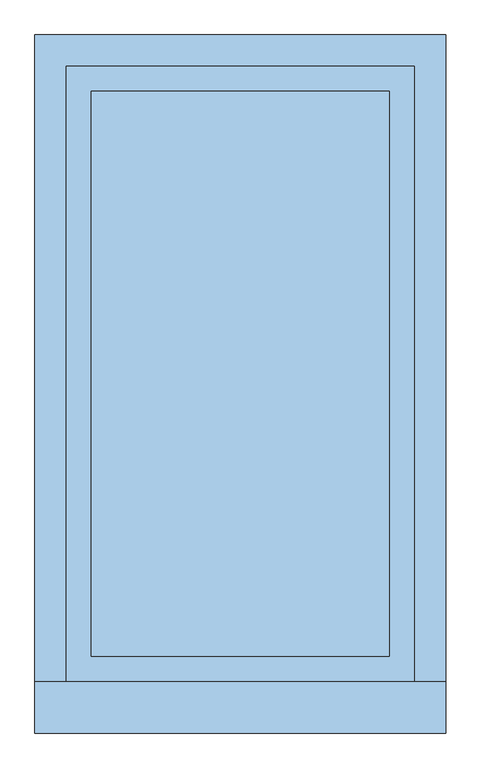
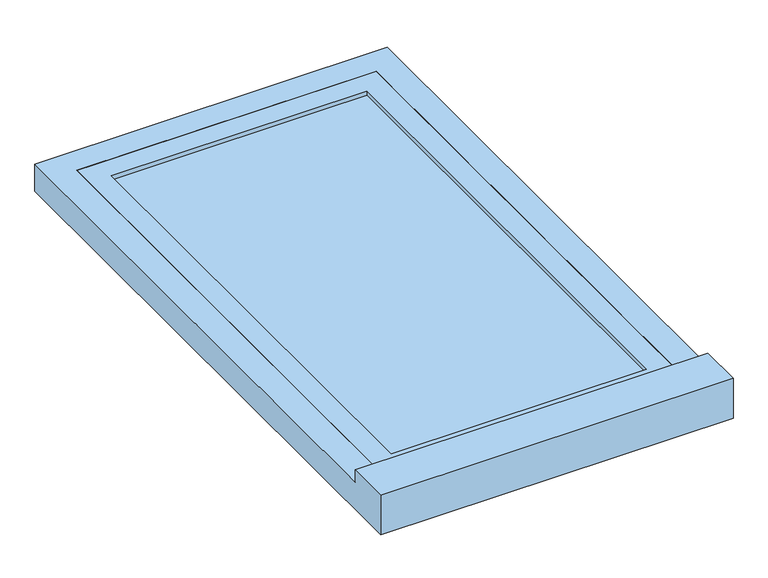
"""IFC4 building model written with IfcOpenShell, lengths in millimetres: window geometry, Fenêtre de toit : Fenêtre de toit."""

from ifc_helpers import new_model, si_unit, frame, origin, place, context, project, spatial, polyline, circle_curve, outline, extrude, faceted_brep, source, transform, mapped, element, save
from ifc_brep_helpers import plane_surface, cylinder_surface, advanced_brep


def window_50da2577(model_context):
    return source(origin(), model_context, "Body", "SolidModel", [
        advanced_brep(
        [(-325.0, -563.5, 4030.0), (-325.0, -586.5, 4030.0), (-325.0, -586.5, 4040.0), (-325.0, -563.5, 4040.0), (325.0, -563.5, 4030.0), (325.0, -563.5, 4040.0), (325.0, -586.5, 4040.0), (325.0, -586.5, 4030.0), (285.0, -570.0, 4040.0), (285.0, -580.0, 4040.0), (275.0, -580.0, 4040.0), (275.0, -570.0, 4040.0), (98.3333333, -570.0, 4040.0), (98.3333333, -580.0, 4040.0), (88.3333333, -580.0, 4040.0), (88.3333333, -570.0, 4040.0), (-88.3333333, -570.0, 4040.0), (-88.3333333, -580.0, 4040.0), (-98.3333333, -580.0, 4040.0), (-98.3333333, -570.0, 4040.0), (-275.0, -570.0, 4040.0), (-275.0, -580.0, 4040.0), (-285.0, -580.0, 4040.0), (-285.0, -570.0, 4040.0), (285.0, -570.0, 4075.0), (275.0, -570.0, 4075.0), (275.0, -580.0, 4075.0), (285.0, -580.0, 4075.0), (98.3333333, -570.0, 4075.0), (88.3333333, -570.0, 4075.0), (88.3333333, -580.0, 4075.0), (98.3333333, -580.0, 4075.0), (-88.3333333, -570.0, 4075.0), (-98.3333333, -570.0, 4075.0), (-98.3333333, -580.0, 4075.0), (-88.3333333, -580.0, 4075.0), (-275.0, -570.0, 4075.0), (-285.0, -570.0, 4075.0), (-285.0, -580.0, 4075.0), (-275.0, -580.0, 4075.0)],
        [
            (0, 1),
            (1, 2, circle_curve(frame((-325.0, -586.5, 4035.0), z_axis=(-1.0, 0.0, 0.0), x_axis=(0.0, 1.0, 0.0)), 5.0)),
            (2, 3),
            (3, 0, circle_curve(frame((-325.0, -563.5, 4035.0), z_axis=(-1.0, 0.0, 0.0), x_axis=(0.0, 1.0, 0.0)), 5.0)),
            (4, 5, circle_curve(frame((325.0, -563.5, 4035.0), z_axis=(1.0, 0.0, 0.0), x_axis=(0.0, 1.0, 0.0)), 5.0)),
            (5, 6),
            (6, 7, circle_curve(frame((325.0, -586.5, 4035.0), z_axis=(1.0, 0.0, 0.0), x_axis=(0.0, 1.0, 0.0)), 5.0)),
            (7, 4),
            (0, 4),
            (7, 1),
            (6, 2),
            (5, 3),
            (8, 9),
            (9, 10, circle_curve(frame((280.0, -580.0, 4040.0), z_axis=(0.0, 0.0, -1.0), x_axis=(-1.0, 0.0, 0.0)), 5.0)),
            (10, 11),
            (11, 8, circle_curve(frame((280.0, -570.0, 4040.0), z_axis=(0.0, 0.0, -1.0), x_axis=(-1.0, 0.0, 0.0)), 5.0)),
            (12, 13),
            (13, 14, circle_curve(frame((93.3333333, -580.0, 4040.0), z_axis=(0.0, 0.0, -1.0), x_axis=(-1.0, 0.0, 0.0)), 5.0)),
            (14, 15),
            (15, 12, circle_curve(frame((93.3333333, -570.0, 4040.0), z_axis=(0.0, 0.0, -1.0), x_axis=(-1.0, 0.0, 0.0)), 5.0)),
            (16, 17),
            (17, 18, circle_curve(frame((-93.3333333, -580.0, 4040.0), z_axis=(0.0, 0.0, -1.0), x_axis=(-1.0, 0.0, 0.0)), 5.0)),
            (18, 19),
            (19, 16, circle_curve(frame((-93.3333333, -570.0, 4040.0), z_axis=(0.0, 0.0, -1.0), x_axis=(-1.0, 0.0, 0.0)), 5.0)),
            (20, 21),
            (21, 22, circle_curve(frame((-280.0, -580.0, 4040.0), z_axis=(0.0, 0.0, -1.0), x_axis=(-1.0, 0.0, 0.0)), 5.0)),
            (22, 23),
            (23, 20, circle_curve(frame((-280.0, -570.0, 4040.0), z_axis=(0.0, 0.0, -1.0), x_axis=(-1.0, 0.0, 0.0)), 5.0)),
            (24, 25, circle_curve(frame((280.0, -570.0, 4075.0), z_axis=(0.0, 0.0, 1.0), x_axis=(-1.0, 0.0, 0.0)), 5.0)),
            (25, 26),
            (26, 27, circle_curve(frame((280.0, -580.0, 4075.0), z_axis=(0.0, 0.0, 1.0), x_axis=(-1.0, 0.0, 0.0)), 5.0)),
            (27, 24),
            (28, 29, circle_curve(frame((93.3333333, -570.0, 4075.0), z_axis=(0.0, 0.0, 1.0), x_axis=(-1.0, 0.0, 0.0)), 5.0)),
            (29, 30),
            (30, 31, circle_curve(frame((93.3333333, -580.0, 4075.0), z_axis=(0.0, 0.0, 1.0), x_axis=(-1.0, 0.0, 0.0)), 5.0)),
            (31, 28),
            (32, 33, circle_curve(frame((-93.3333333, -570.0, 4075.0), z_axis=(0.0, 0.0, 1.0), x_axis=(-1.0, 0.0, 0.0)), 5.0)),
            (33, 34),
            (34, 35, circle_curve(frame((-93.3333333, -580.0, 4075.0), z_axis=(0.0, 0.0, 1.0), x_axis=(-1.0, 0.0, 0.0)), 5.0)),
            (35, 32),
            (36, 37, circle_curve(frame((-280.0, -570.0, 4075.0), z_axis=(0.0, 0.0, 1.0), x_axis=(-1.0, 0.0, 0.0)), 5.0)),
            (37, 38),
            (38, 39, circle_curve(frame((-280.0, -580.0, 4075.0), z_axis=(0.0, 0.0, 1.0), x_axis=(-1.0, 0.0, 0.0)), 5.0)),
            (39, 36),
            (27, 9),
            (8, 24),
            (26, 10),
            (25, 11),
            (31, 13),
            (12, 28),
            (30, 14),
            (29, 15),
            (35, 17),
            (16, 32),
            (34, 18),
            (33, 19),
            (39, 21),
            (20, 36),
            (38, 22),
            (37, 23),
        ],
        [
            plane_surface(frame((-325.0, -604.8858213, 4030.0), z_axis=(-1.0, 0.0, 0.0), x_axis=(0.0, -1.0, 0.0))),
            plane_surface(frame((325.0, -604.8858213, 4030.0), z_axis=(1.0, 0.0, 0.0), x_axis=(0.0, 1.0, 0.0))),
            plane_surface(frame((-325.0, -563.5, 4030.0), z_axis=(0.0, 0.0, -1.0), x_axis=(1.0, 0.0, 0.0))),
            cylinder_surface(frame((325.0, -586.5, 4035.0), z_axis=(-1.0, 0.0, 0.0), x_axis=(0.0, 1.0, 0.0)), 5.0),
            plane_surface(frame((-325.0, -586.5, 4040.0), z_axis=(0.0, 0.0, 1.0), x_axis=(1.0, 0.0, 0.0))),
            cylinder_surface(frame((325.0, -563.5, 4035.0), z_axis=(-1.0, 0.0, 0.0), x_axis=(0.0, 1.0, 0.0)), 5.0),
            plane_surface(frame((285.0, -580.0, 4075.0), z_axis=(0.0, 0.0, 1.0), x_axis=(0.0, 1.0, 0.0))),
            plane_surface(frame((285.0, -570.0, 4035.0), z_axis=(1.0, 0.0, 0.0), x_axis=(0.0, 0.0, 1.0))),
            cylinder_surface(frame((280.0, -580.0, 4075.0), z_axis=(0.0, 0.0, -1.0), x_axis=(-1.0, 0.0, 0.0)), 5.0),
            plane_surface(frame((275.0, -580.0, 4035.0), z_axis=(-1.0, 0.0, 0.0), x_axis=(0.0, 0.0, 1.0))),
            cylinder_surface(frame((280.0, -570.0, 4075.0), z_axis=(0.0, 0.0, -1.0), x_axis=(-1.0, 0.0, 0.0)), 5.0),
            plane_surface(frame((98.3333333, -570.0, 4035.0), z_axis=(1.0, 0.0, 0.0), x_axis=(0.0, 0.0, 1.0))),
            cylinder_surface(frame((93.3333333, -580.0, 4075.0), z_axis=(0.0, 0.0, -1.0), x_axis=(-1.0, 0.0, 0.0)), 5.0),
            plane_surface(frame((88.3333333, -580.0, 4035.0), z_axis=(-1.0, 0.0, 0.0), x_axis=(0.0, 0.0, 1.0))),
            cylinder_surface(frame((93.3333333, -570.0, 4075.0), z_axis=(0.0, 0.0, -1.0), x_axis=(-1.0, 0.0, 0.0)), 5.0),
            plane_surface(frame((-88.3333333, -570.0, 4035.0), z_axis=(1.0, 0.0, 0.0), x_axis=(0.0, 0.0, 1.0))),
            cylinder_surface(frame((-93.3333333, -580.0, 4075.0), z_axis=(0.0, 0.0, -1.0), x_axis=(-1.0, 0.0, 0.0)), 5.0),
            plane_surface(frame((-98.3333333, -580.0, 4035.0), z_axis=(-1.0, 0.0, 0.0), x_axis=(0.0, 0.0, 1.0))),
            cylinder_surface(frame((-93.3333333, -570.0, 4075.0), z_axis=(0.0, 0.0, -1.0), x_axis=(-1.0, 0.0, 0.0)), 5.0),
            plane_surface(frame((-275.0, -570.0, 4035.0), z_axis=(1.0, 0.0, 0.0), x_axis=(0.0, 0.0, 1.0))),
            cylinder_surface(frame((-280.0, -580.0, 4075.0), z_axis=(0.0, 0.0, -1.0), x_axis=(-1.0, 0.0, 0.0)), 5.0),
            plane_surface(frame((-285.0, -580.0, 4035.0), z_axis=(-1.0, 0.0, 0.0), x_axis=(0.0, 0.0, 1.0))),
            cylinder_surface(frame((-280.0, -570.0, 4075.0), z_axis=(0.0, 0.0, -1.0), x_axis=(-1.0, 0.0, 0.0)), 5.0),
        ],
        [
            (0, [[1, 2, 3, 4]]),
            (1, [[5, 6, 7, 8]]),
            (2, [[-1, 9, -8, 10]]),
            (3, [[-2, -10, -7, 11]]),
            (4, [[-3, -11, -6, 12], [13, 14, 15, 16], [17, 18, 19, 20], [21, 22, 23, 24], [25, 26, 27, 28]]),
            (5, [[-4, -12, -5, -9]]),
            (6, [[29, 30, 31, 32]]),
            (6, [[33, 34, 35, 36]]),
            (6, [[37, 38, 39, 40]]),
            (6, [[41, 42, 43, 44]]),
            (7, [[-32, 45, -13, 46]]),
            (8, [[-31, 47, -14, -45]]),
            (9, [[-30, 48, -15, -47]]),
            (10, [[-29, -46, -16, -48]]),
            (11, [[-36, 49, -17, 50]]),
            (12, [[-35, 51, -18, -49]]),
            (13, [[-34, 52, -19, -51]]),
            (14, [[-33, -50, -20, -52]]),
            (15, [[-40, 53, -21, 54]]),
            (16, [[-39, 55, -22, -53]]),
            (17, [[-38, 56, -23, -55]]),
            (18, [[-37, -54, -24, -56]]),
            (19, [[-44, 57, -25, 58]]),
            (20, [[-43, 59, -26, -57]]),
            (21, [[-42, 60, -27, -59]]),
            (22, [[-41, -58, -28, -60]]),
        ],
    ),
        faceted_brep([(400.0, 660.0, 4115.0), (-400.0, 660.0, 4115.0), (-400.0, -600.0, 4115.0), (-340.0, -600.0, 4115.0), (-340.0, 600.0, 4115.0), (340.0, 600.0, 4115.0), (340.0, -600.0, 4115.0), (400.0, -600.0, 4115.0), (400.0, -700.0, 4050.0), (-400.0, -700.0, 4050.0), (-400.0, 660.0, 4050.0), (400.0, 660.0, 4050.0), (-340.0, -600.0, 4050.0), (340.0, -600.0, 4050.0), (340.0, 600.0, 4050.0), (-340.0, 600.0, 4050.0), (400.0, -600.0, 4145.0), (400.0, -700.0, 4145.0), (-400.0, -700.0, 4145.0), (-400.0, -600.0, 4145.0)], [[[0, 1, 2, 3, 4, 5, 6, 7]], [[8, 9, 10, 11], [12, 13, 14, 15]], [[8, 11, 0, 7, 16, 17]], [[1, 0, 11, 10]], [[10, 9, 18, 19, 2, 1]], [[18, 9, 8, 17]], [[4, 3, 12, 15]], [[5, 4, 15, 14]], [[6, 5, 14, 13]], [[13, 12, 3, 2, 19, 16, 7, 6]], [[19, 18, 17, 16]]]),
        extrude(outline(polyline([(290.0, -550.0), (-290.0, -550.0), (-290.0, 550.0), (290.0, 550.0), (290.0, -550.0)])), frame((0.0, 0.0, 4095.0), z_axis=(0.0, 0.0, 1.0), x_axis=(1.0, 0.0, 0.0)), (0.0, 0.0, 1.0), 10.0),
        extrude(outline(polyline([(-340.0, -600.0), (-340.0, 600.0), (340.0, 600.0), (340.0, -600.0), (-340.0, -600.0)]), holes=[polyline([(-290.0, 550.0), (-290.0, -550.0), (290.0, -550.0), (290.0, 550.0), (-290.0, 550.0)])]), frame((0.0, 0.0, 4075.0), z_axis=(0.0, 0.0, 1.0), x_axis=(1.0, 0.0, 0.0)), (0.0, 0.0, 1.0), 40.0),
    ])


if __name__ == "__main__":
    model = new_model("IFC4")
    model_context = context("Model", 3, world=origin())
    ifc_project = project(units=[si_unit("LENGTHUNIT", "METRE", prefix="MILLI")], contexts=[model_context])
    site = spatial("IfcSite", under=ifc_project)
    building = spatial("IfcBuilding", under=site)
    placement = place(None, origin())
    window_shape = window_50da2577(model_context)
    element("IfcWindow", 1, ObjectType="Fenêtre de toit : Fenêtre de toit", at=placement, inside=building, context=model_context, shape_type="MappedRepresentation", body=[
        mapped(window_shape, transform((0.0, 0.0, 0.0), x_axis=(1.0, 0.0, 0.0), y_axis=(0.0, 1.0, 0.0), z_axis=(0.0, 0.0, 1.0))),
    ])
    save(model, "model.ifc")
